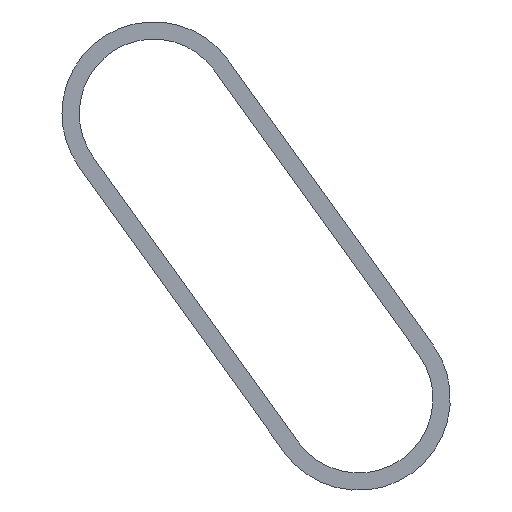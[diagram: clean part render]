
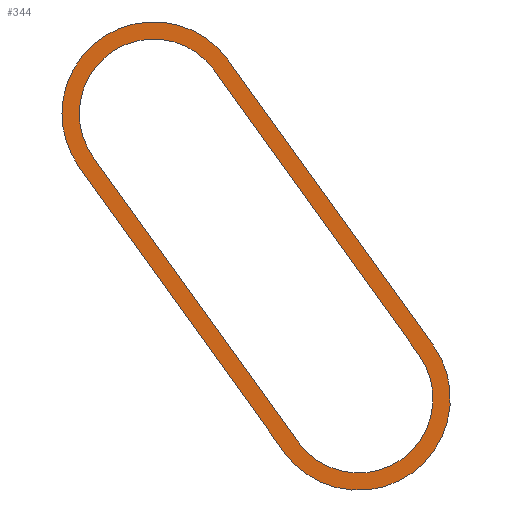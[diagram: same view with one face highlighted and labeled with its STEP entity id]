
A CAD part, left-side view. The second image highlights one B-rep face of the part: STEP entity #344.
In plain terms, the highlighted planar face has unit normal (-1, 0, 0).
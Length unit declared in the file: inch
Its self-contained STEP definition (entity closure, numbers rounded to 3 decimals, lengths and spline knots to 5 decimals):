
#3 = DIRECTION ( 'NONE',  ( -1., 0., 0. ) ) ;
#4 = CARTESIAN_POINT ( 'NONE',  ( -9.79528, -9.84589, 8.97741 ) ) ;
#9 = CARTESIAN_POINT ( 'NONE',  ( -9.79528, -11.62698, 6.5 ) ) ;
#14 = CIRCLE ( 'NONE', #290, 0.64758 ) ;
#17 = CARTESIAN_POINT ( 'NONE',  ( -9.79528, -10.97938, 6.03442 ) ) ;
#21 = FACE_BOUND ( 'NONE', #85, .T. ) ;
#23 = DIRECTION ( 'NONE',  ( -1., 0., 0. ) ) ;
#34 = DIRECTION ( 'NONE',  ( -1., 0., 0. ) ) ;
#36 = AXIS2_PLACEMENT_3D ( 'NONE', #194, #295, #40 ) ;
#37 = CARTESIAN_POINT ( 'NONE',  ( -9.79528, -9.32009, 8.59939 ) ) ;
#38 = CARTESIAN_POINT ( 'NONE',  ( -9.79528, -9.84589, 8.97741 ) ) ;
#39 = VERTEX_POINT ( 'NONE', #62 ) ;
#40 = DIRECTION ( 'NONE',  ( 0., -0.812, 0.584 ) ) ;
#42 = EDGE_CURVE ( 'NONE', #166, #248, #232, .T. ) ;
#46 = ORIENTED_EDGE ( 'NONE', *, *, #42, .T. ) ;
#50 = VERTEX_POINT ( 'NONE', #359 ) ;
#52 = DIRECTION ( 'NONE',  ( -1., 0., 0. ) ) ;
#55 = CIRCLE ( 'NONE', #70, 0.79758 ) ;
#59 = EDGE_CURVE ( 'NONE', #248, #340, #214, .T. ) ;
#61 = CARTESIAN_POINT ( 'NONE',  ( -9.79528, -10.21063, 7.36069 ) ) ;
#62 = CARTESIAN_POINT ( 'NONE',  ( -9.79528, -9.0483, 8.97741 ) ) ;
#70 = AXIS2_PLACEMENT_3D ( 'NONE', #4, #34, #157 ) ;
#71 = CARTESIAN_POINT ( 'NONE',  ( -9.79528, -12.15278, 6.87802 ) ) ;
#76 = DIRECTION ( 'NONE',  ( 0., 0.584, 0.812 ) ) ;
#80 = FACE_OUTER_BOUND ( 'NONE', #403, .T. ) ;
#83 = VECTOR ( 'NONE', #188, 39.37008 ) ;
#85 = EDGE_LOOP ( 'NONE', ( #90, #374, #380, #346, #119 ) ) ;
#90 = ORIENTED_EDGE ( 'NONE', *, *, #105, .F. ) ;
#98 = AXIS2_PLACEMENT_3D ( 'NONE', #165, #259, #230 ) ;
#100 = ORIENTED_EDGE ( 'NONE', *, *, #59, .T. ) ;
#102 = CARTESIAN_POINT ( 'NONE',  ( -9.79528, -10.08884, 7.27313 ) ) ;
#105 = EDGE_CURVE ( 'NONE', #229, #50, #282, .T. ) ;
#110 = VERTEX_POINT ( 'NONE', #71 ) ;
#119 = ORIENTED_EDGE ( 'NONE', *, *, #331, .F. ) ;
#124 = VERTEX_POINT ( 'NONE', #163 ) ;
#141 = PLANE ( 'NONE',  #233 ) ;
#143 = DIRECTION ( 'NONE',  ( 0., 0., 1. ) ) ;
#153 = EDGE_CURVE ( 'NONE', #226, #166, #255, .T. ) ;
#157 = DIRECTION ( 'NONE',  ( 0., -0.812, 0.584 ) ) ;
#160 = DIRECTION ( 'NONE',  ( 0., 0.584, 0.812 ) ) ;
#161 = EDGE_CURVE ( 'NONE', #400, #124, #216, .T. ) ;
#163 = CARTESIAN_POINT ( 'NONE',  ( -9.79528, -9.1983, 8.97741 ) ) ;
#164 = DIRECTION ( 'NONE',  ( -1., 0., 0. ) ) ;
#165 = CARTESIAN_POINT ( 'NONE',  ( -9.79528, -9.84589, 8.97741 ) ) ;
#166 = VERTEX_POINT ( 'NONE', #17 ) ;
#177 = LINE ( 'NONE', #210, #285 ) ;
#188 = DIRECTION ( 'NONE',  ( 0., -0.584, -0.812 ) ) ;
#194 = CARTESIAN_POINT ( 'NONE',  ( -9.79528, -9.84589, 8.97741 ) ) ;
#201 = DIRECTION ( 'NONE',  ( 0., 0.812, -0.584 ) ) ;
#210 = CARTESIAN_POINT ( 'NONE',  ( -9.79528, -11.26223, 8.11672 ) ) ;
#214 = LINE ( 'NONE', #383, #277 ) ;
#216 = CIRCLE ( 'NONE', #36, 0.64758 ) ;
#217 = EDGE_CURVE ( 'NONE', #124, #229, #278, .T. ) ;
#226 = VERTEX_POINT ( 'NONE', #369 ) ;
#229 = VERTEX_POINT ( 'NONE', #37 ) ;
#230 = DIRECTION ( 'NONE',  ( 0., -0.812, 0.584 ) ) ;
#231 = EDGE_CURVE ( 'NONE', #340, #39, #328, .T. ) ;
#232 = CIRCLE ( 'NONE', #360, 0.79758 ) ;
#233 = AXIS2_PLACEMENT_3D ( 'NONE', #237, #52, #143 ) ;
#237 = CARTESIAN_POINT ( 'NONE',  ( -9.79528, -11.62698, 6.5 ) ) ;
#248 = VERTEX_POINT ( 'NONE', #391 ) ;
#251 = DIRECTION ( 'NONE',  ( 0., 0.812, -0.584 ) ) ;
#255 = LINE ( 'NONE', #102, #316 ) ;
#259 = DIRECTION ( 'NONE',  ( -1., 0., 0. ) ) ;
#277 = VECTOR ( 'NONE', #160, 39.37008 ) ;
#278 = CIRCLE ( 'NONE', #98, 0.64758 ) ;
#282 = LINE ( 'NONE', #61, #83 ) ;
#284 = CARTESIAN_POINT ( 'NONE',  ( -9.79528, -10.37169, 9.35542 ) ) ;
#285 = VECTOR ( 'NONE', #76, 39.37008 ) ;
#288 = DIRECTION ( 'NONE',  ( 0., -0.812, 0.584 ) ) ;
#290 = AXIS2_PLACEMENT_3D ( 'NONE', #377, #23, #201 ) ;
#294 = DIRECTION ( 'NONE',  ( 0., -0.584, -0.812 ) ) ;
#295 = DIRECTION ( 'NONE',  ( -1., 0., 0. ) ) ;
#310 = ORIENTED_EDGE ( 'NONE', *, *, #231, .T. ) ;
#316 = VECTOR ( 'NONE', #294, 39.37008 ) ;
#328 = CIRCLE ( 'NONE', #381, 0.79758 ) ;
#331 = EDGE_CURVE ( 'NONE', #50, #110, #14, .T. ) ;
#340 = VERTEX_POINT ( 'NONE', #405 ) ;
#344 = ADVANCED_FACE ( 'NONE', ( #21, #80 ), #141, .T. ) ;
#346 = ORIENTED_EDGE ( 'NONE', *, *, #348, .F. ) ;
#348 = EDGE_CURVE ( 'NONE', #110, #400, #177, .T. ) ;
#357 = ORIENTED_EDGE ( 'NONE', *, *, #153, .T. ) ;
#359 = CARTESIAN_POINT ( 'NONE',  ( -9.79528, -11.10118, 6.12198 ) ) ;
#360 = AXIS2_PLACEMENT_3D ( 'NONE', #9, #3, #251 ) ;
#369 = CARTESIAN_POINT ( 'NONE',  ( -9.79528, -9.19829, 8.51183 ) ) ;
#371 = ORIENTED_EDGE ( 'NONE', *, *, #387, .T. ) ;
#374 = ORIENTED_EDGE ( 'NONE', *, *, #217, .F. ) ;
#377 = CARTESIAN_POINT ( 'NONE',  ( -9.79528, -11.62698, 6.5 ) ) ;
#380 = ORIENTED_EDGE ( 'NONE', *, *, #161, .F. ) ;
#381 = AXIS2_PLACEMENT_3D ( 'NONE', #38, #164, #288 ) ;
#383 = CARTESIAN_POINT ( 'NONE',  ( -9.79528, -11.38402, 8.20428 ) ) ;
#387 = EDGE_CURVE ( 'NONE', #39, #226, #55, .T. ) ;
#391 = CARTESIAN_POINT ( 'NONE',  ( -9.79528, -12.27457, 6.96558 ) ) ;
#400 = VERTEX_POINT ( 'NONE', #284 ) ;
#403 = EDGE_LOOP ( 'NONE', ( #357, #46, #100, #310, #371 ) ) ;
#405 = CARTESIAN_POINT ( 'NONE',  ( -9.79528, -10.49348, 9.44298 ) ) ;
